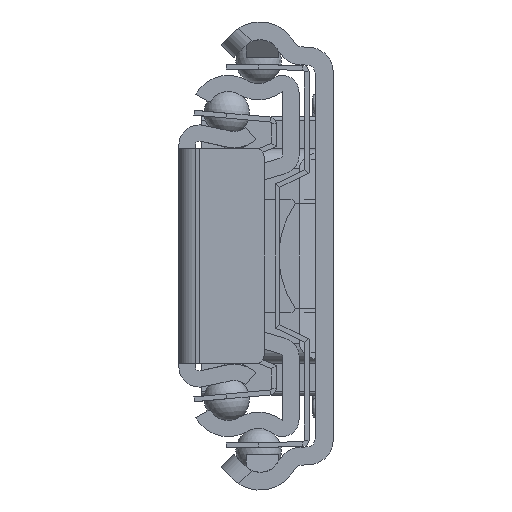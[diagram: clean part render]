
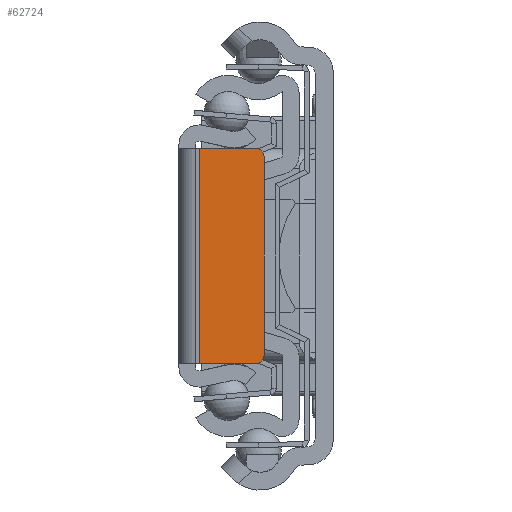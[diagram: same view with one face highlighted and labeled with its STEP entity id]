
A CAD part, left-side view. The second image highlights one B-rep face of the part: STEP entity #62724.
In plain terms, the highlighted planar face has unit normal (-1, 0, 0).
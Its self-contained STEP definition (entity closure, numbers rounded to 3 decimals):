
#58451=DIRECTION('',(0.,-1.,0.));
#58452=VECTOR('',#58451,7.);
#58453=CARTESIAN_POINT('',(-0.5,-2.,-13.25));
#58454=LINE('',#58453,#58452);
#58455=CARTESIAN_POINT('',(-0.5,-9.,12.25));
#58456=DIRECTION('',(-1.,0.,0.));
#58457=DIRECTION('',(0.,-1.,0.));
#58458=AXIS2_PLACEMENT_3D('',#58455,#58456,#58457);
#58460=CARTESIAN_POINT('',(-0.5,-9.,-12.25));
#58461=DIRECTION('',(-1.,0.,0.));
#58462=DIRECTION('',(0.,0.,-1.));
#58463=AXIS2_PLACEMENT_3D('',#58460,#58461,#58462);
#58465=DIRECTION('',(0.,0.,1.));
#58466=VECTOR('',#58465,26.5);
#58467=CARTESIAN_POINT('',(-0.5,-2.,-13.25));
#58468=LINE('',#58467,#58466);
#58487=DIRECTION('',(0.,-1.,0.));
#58488=VECTOR('',#58487,7.);
#58489=CARTESIAN_POINT('',(-0.5,-2.,13.25));
#58490=LINE('',#58489,#58488);
#58521=DIRECTION('',(0.,0.,1.));
#58522=VECTOR('',#58521,24.5);
#58523=CARTESIAN_POINT('',(-0.5,-10.,-12.25));
#58524=LINE('',#58523,#58522);
#60684=CARTESIAN_POINT('',(-0.5,-2.,-13.25));
#60685=CARTESIAN_POINT('',(-0.5,-2.,13.25));
#60686=VERTEX_POINT('',#60684);
#60687=VERTEX_POINT('',#60685);
#60704=CARTESIAN_POINT('',(-0.5,-10.,12.25));
#60705=VERTEX_POINT('',#60704);
#60706=CARTESIAN_POINT('',(-0.5,-9.,13.25));
#60707=VERTEX_POINT('',#60706);
#60708=CARTESIAN_POINT('',(-0.5,-9.,-13.25));
#60709=CARTESIAN_POINT('',(-0.5,-10.,-12.25));
#60710=VERTEX_POINT('',#60708);
#60711=VERTEX_POINT('',#60709);
#62707=CARTESIAN_POINT('',(-0.5,-2.,-13.25));
#62708=DIRECTION('',(-1.,0.,0.));
#62709=DIRECTION('',(0.,-1.,0.));
#62710=AXIS2_PLACEMENT_3D('',#62707,#62708,#62709);
#62711=PLANE('',#62710);
#62713=ORIENTED_EDGE('',*,*,#62712,.F.);
#62715=ORIENTED_EDGE('',*,*,#62714,.F.);
#62716=ORIENTED_EDGE('',*,*,#62697,.F.);
#62717=ORIENTED_EDGE('',*,*,#62687,.F.);
#62719=ORIENTED_EDGE('',*,*,#62718,.T.);
#62721=ORIENTED_EDGE('',*,*,#62720,.T.);
#62722=EDGE_LOOP('',(#62713,#62715,#62716,#62717,#62719,#62721));
#62723=FACE_OUTER_BOUND('',#62722,.F.);
#58459=CIRCLE('',#58458,1.);
#58464=CIRCLE('',#58463,1.);
#62687=EDGE_CURVE('',#60686,#60710,#58454,.T.);
#62697=EDGE_CURVE('',#60710,#60711,#58464,.T.);
#62712=EDGE_CURVE('',#60705,#60707,#58459,.T.);
#62714=EDGE_CURVE('',#60711,#60705,#58524,.T.);
#62718=EDGE_CURVE('',#60686,#60687,#58468,.T.);
#62720=EDGE_CURVE('',#60687,#60707,#58490,.T.);
#62724=ADVANCED_FACE('',(#62723),#62711,.T.);
